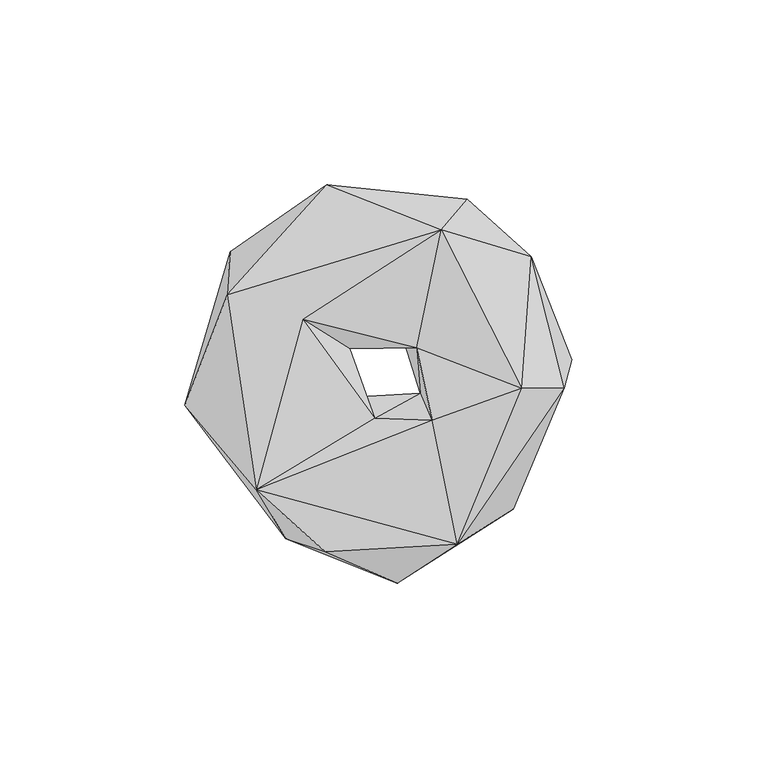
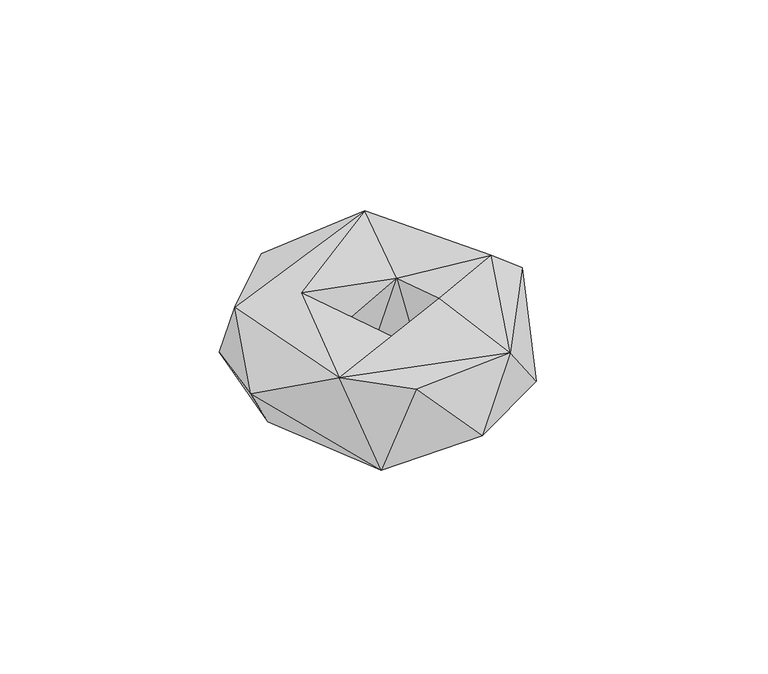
"""IFC4 building model written with IfcOpenShell, lengths in millimetres: geographic element geometry, Enscape AssetDefinition - Food 027 Pastry : Enscape AssetDefinition - Food 027 Pastry."""

from ifc_helpers import new_model, si_unit, origin, place, context, project, spatial, triangles, source, transform, mapped, element, save


def geographic_element_8ca766f1(model_context):
    return source(origin(), model_context, "Body", "Tessellation", [
        triangles([(-9.4769998, -6.4829999, 5.8509998), (-20.0799994, 14.7409993, 31.7239993), (-7.4559999, 6.7860002, 21.4990011), (-0.639, -12.0409995, 23.5670004), (6.111, 12.4970002, 5.8240001), (10.6790005, 7.0930002, 31.314999), (-32.6940005, -31.3239987, 31.1019987), (-40.5560002, 21.4319994, 29.1910007), (17.4400011, 39.0250026, 35.8639991), (14.9230001, -12.588, 33.8990028), (11.7449998, -5.1779997, 8.5530004), (-42.0679991, -2.2710001, -0.347), (-13.068, 8.1829995, 2.3099999), (-39.6749992, 33.0700018, 4.3779997), (-52.0440026, -8.4510001, 17.8539997), (-24.7620015, -44.6200008, 0.478), (-13.6740007, 51.1949992, 22.6219999), (7.0039999, 45.1519996, 0.194), (41.7430007, 31.7719978, 17.9180004), (24.3979998, 47.2960003, 8.5359996), (37.1039988, -17.7870002, -0.776), (39.1689982, -3.9269999, 37.025002), (52.7490014, 3.8429999, 13.845), (50.7200009, -3.7009999, 27.837), (36.869, -36.6280014, 8.6839999), (5.4080002, -56.6439989, 10.6290001), (21.7130006, -46.051, 30.6650001), (-13.9549996, -48.0590033, 30.1789991)], [[28, 7, 16], [28, 16, 26], [26, 27, 28], [27, 7, 28], [22, 27, 24], [24, 27, 25], [25, 27, 26], [21, 25, 26], [16, 21, 26], [25, 23, 24], [21, 23, 25], [23, 19, 24], [24, 19, 22], [6, 22, 9], [22, 19, 9], [20, 23, 21], [19, 23, 20], [19, 20, 9], [20, 21, 18], [18, 21, 5], [17, 9, 20], [17, 20, 18], [8, 9, 17], [7, 8, 15], [7, 15, 16], [8, 14, 15], [14, 8, 17], [17, 18, 14], [13, 18, 5], [14, 18, 13], [15, 12, 16], [13, 12, 14], [14, 12, 15], [13, 1, 12], [1, 16, 12], [21, 16, 1], [5, 21, 11], [11, 21, 1], [11, 6, 5], [22, 10, 27], [22, 6, 10], [10, 7, 27], [10, 6, 11], [10, 4, 7], [1, 4, 11], [10, 11, 4], [9, 8, 2], [2, 6, 9], [8, 7, 2], [4, 2, 7], [3, 13, 5], [4, 1, 3], [3, 5, 6], [3, 2, 4], [6, 2, 3], [3, 1, 13]]),
    ])


if __name__ == "__main__":
    model = new_model("IFC4")
    model_context = context("Model", 3, world=origin())
    ifc_project = project(units=[si_unit("LENGTHUNIT", "METRE", prefix="MILLI")], contexts=[model_context])
    site = spatial("IfcSite", under=ifc_project)
    building = spatial("IfcBuilding", under=site)
    placement = place(None, origin())
    geographic_element_shape = geographic_element_8ca766f1(model_context)
    element("IfcGeographicElement", 1, ObjectType="Enscape AssetDefinition - Food 027 Pastry : Enscape AssetDefinition - Food 027 Pastry", at=placement, inside=building, context=model_context, shape_type="MappedRepresentation", body=[
        mapped(geographic_element_shape, transform((0.0, 0.0, 0.0), x_axis=(1.0, 0.0, 0.0), y_axis=(0.0, 1.0, 0.0), z_axis=(0.0, 0.0, 1.0))),
    ])
    save(model, "model.ifc")
